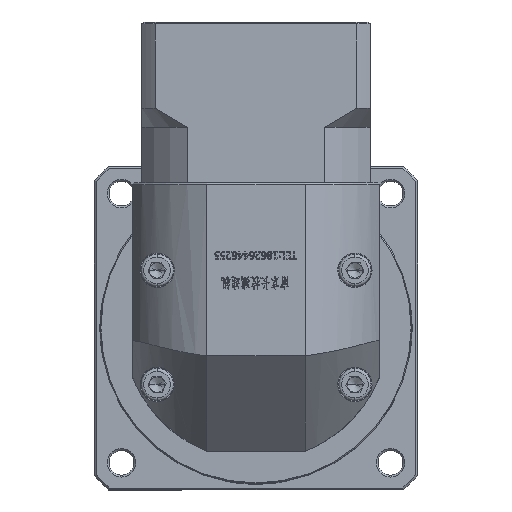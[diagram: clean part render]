
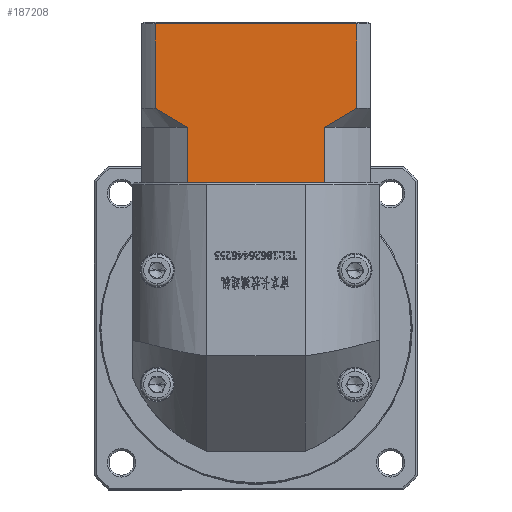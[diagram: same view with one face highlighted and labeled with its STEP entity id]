
A CAD part, top view. The second image highlights one B-rep face of the part: STEP entity #187208.
In plain terms, the highlighted planar face has unit normal (0, 0, 1).
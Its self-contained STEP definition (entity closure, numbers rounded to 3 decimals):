
#231 = EDGE_CURVE ( 'NONE', #184930, #65325, #157728, .T. ) ;
#843 = CARTESIAN_POINT ( 'NONE',  ( -54.522, 86.267, 52.58 ) ) ;
#1303 = VECTOR ( 'NONE', #90944, 1000. ) ;
#1353 = CARTESIAN_POINT ( 'NONE',  ( -55.978, 85.517, 52.58 ) ) ;
#5391 = LINE ( 'NONE', #24481, #40458 ) ;
#12006 = VECTOR ( 'NONE', #15637, 1000. ) ;
#13041 = CARTESIAN_POINT ( 'NONE',  ( -104.006, 112.717, 52.58 ) ) ;
#15405 = EDGE_CURVE ( 'NONE', #114594, #58598, #169874, .T. ) ;
#15507 = VECTOR ( 'NONE', #178546, 1000. ) ;
#15637 = DIRECTION ( 'NONE',  ( 1., 0., 0. ) ) ;
#16721 = LINE ( 'NONE', #45105, #12006 ) ;
#20304 = EDGE_CURVE ( 'NONE', #135572, #42452, #16721, .T. ) ;
#20843 = CARTESIAN_POINT ( 'NONE',  ( -100.464, 90.517, 52.58 ) ) ;
#23150 = CARTESIAN_POINT ( 'NONE',  ( -100.464, 90.517, 52.58 ) ) ;
#24481 = CARTESIAN_POINT ( 'NONE',  ( -92.034, 85.517, 52.58 ) ) ;
#26274 = EDGE_CURVE ( 'NONE', #114594, #131076, #40138, .T. ) ;
#30217 = LINE ( 'NONE', #190003, #163635 ) ;
#30803 = CARTESIAN_POINT ( 'NONE',  ( -55.978, 85.517, 52.58 ) ) ;
#30850 = CARTESIAN_POINT ( 'NONE',  ( -47.549, 85.517, 52.58 ) ) ;
#34606 = EDGE_CURVE ( 'NONE', #135572, #131076, #5391, .T. ) ;
#36309 = CARTESIAN_POINT ( 'NONE',  ( -99.104, 89.617, 52.58 ) ) ;
#38257 = CARTESIAN_POINT ( 'NONE',  ( -94.917, 87.068, 52.58 ) ) ;
#40138 = B_SPLINE_CURVE_WITH_KNOTS ( 'NONE', 3,
 ( #23150, #36309, #51391, #38257, #142817, #53323 ),
 .UNSPECIFIED., .F., .F.,
 ( 4, 2, 4 ),
 ( 0.052, 0.057, 0.062 ),
 .UNSPECIFIED. ) ;
#40458 = VECTOR ( 'NONE', #129077, 1000. ) ;
#40996 = LINE ( 'NONE', #30850, #1303 ) ;
#41754 = PLANE ( 'NONE',  #154138 ) ;
#42452 = VERTEX_POINT ( 'NONE', #82840 ) ;
#42503 = DIRECTION ( 'NONE',  ( -1., 0., 0. ) ) ;
#43210 = ORIENTED_EDGE ( 'NONE', *, *, #78696, .T. ) ;
#45105 = CARTESIAN_POINT ( 'NONE',  ( -104.006, 71.017, 52.58 ) ) ;
#45911 = CARTESIAN_POINT ( 'NONE',  ( -48.911, 89.616, 52.58 ) ) ;
#49251 = ORIENTED_EDGE ( 'NONE', *, *, #55905, .T. ) ;
#51391 = CARTESIAN_POINT ( 'NONE',  ( -97.725, 88.744, 52.58 ) ) ;
#53323 = CARTESIAN_POINT ( 'NONE',  ( -92.034, 85.517, 52.58 ) ) ;
#55040 = ORIENTED_EDGE ( 'NONE', *, *, #26274, .T. ) ;
#55905 = EDGE_CURVE ( 'NONE', #82140, #56523, #74074, .T. ) ;
#56523 = VERTEX_POINT ( 'NONE', #108114 ) ;
#58085 = DIRECTION ( 'NONE',  ( 0., 0., -1. ) ) ;
#58428 = ORIENTED_EDGE ( 'NONE', *, *, #69109, .F. ) ;
#58598 = VERTEX_POINT ( 'NONE', #119858 ) ;
#58776 = DIRECTION ( 'NONE',  ( 1., 0., 0. ) ) ;
#65325 = VERTEX_POINT ( 'NONE', #114578 ) ;
#69109 = EDGE_CURVE ( 'NONE', #160853, #65325, #40996, .T. ) ;
#70449 = ORIENTED_EDGE ( 'NONE', *, *, #34606, .F. ) ;
#74074 = LINE ( 'NONE', #148317, #153693 ) ;
#78696 = EDGE_CURVE ( 'NONE', #42452, #82140, #30217, .T. ) ;
#79898 = ORIENTED_EDGE ( 'NONE', *, *, #20304, .T. ) ;
#81629 = CARTESIAN_POINT ( 'NONE',  ( -47.549, 112.717, 52.58 ) ) ;
#81802 = FACE_OUTER_BOUND ( 'NONE', #141859, .T. ) ;
#82140 = VERTEX_POINT ( 'NONE', #97249 ) ;
#82840 = CARTESIAN_POINT ( 'NONE',  ( -91.043, 71.017, 52.58 ) ) ;
#86838 = ORIENTED_EDGE ( 'NONE', *, *, #231, .T. ) ;
#89017 = CARTESIAN_POINT ( 'NONE',  ( -100.464, 85.517, 52.58 ) ) ;
#90553 = DIRECTION ( 'NONE',  ( 0., -1., 0. ) ) ;
#90944 = DIRECTION ( 'NONE',  ( 0., -1., 0. ) ) ;
#97249 = CARTESIAN_POINT ( 'NONE',  ( -56.969, 71.017, 52.58 ) ) ;
#100538 = DIRECTION ( 'NONE',  ( 1., 0., 0. ) ) ;
#108114 = CARTESIAN_POINT ( 'NONE',  ( -55.978, 71.017, 52.58 ) ) ;
#109644 = ORIENTED_EDGE ( 'NONE', *, *, #126878, .F. ) ;
#114578 = CARTESIAN_POINT ( 'NONE',  ( -47.549, 90.517, 52.58 ) ) ;
#114594 = VERTEX_POINT ( 'NONE', #20843 ) ;
#119568 = VECTOR ( 'NONE', #90553, 1000. ) ;
#119858 = CARTESIAN_POINT ( 'NONE',  ( -100.464, 112.717, 52.58 ) ) ;
#122399 = ORIENTED_EDGE ( 'NONE', *, *, #15405, .F. ) ;
#126878 = EDGE_CURVE ( 'NONE', #184930, #56523, #178108, .T. ) ;
#129077 = DIRECTION ( 'NONE',  ( 0., 1., 0. ) ) ;
#131076 = VERTEX_POINT ( 'NONE', #155149 ) ;
#132712 = LINE ( 'NONE', #13041, #163224 ) ;
#134981 = CARTESIAN_POINT ( 'NONE',  ( -55.978, 85.517, 52.58 ) ) ;
#135324 = CARTESIAN_POINT ( 'NONE',  ( -50.291, 88.742, 52.58 ) ) ;
#135572 = VERTEX_POINT ( 'NONE', #144278 ) ;
#135844 = ORIENTED_EDGE ( 'NONE', *, *, #183939, .T. ) ;
#141859 = EDGE_LOOP ( 'NONE', ( #58428, #135844, #122399, #55040, #70449, #79898, #43210, #49251, #109644, #86838 ) ) ;
#142817 = CARTESIAN_POINT ( 'NONE',  ( -93.486, 86.265, 52.58 ) ) ;
#144278 = CARTESIAN_POINT ( 'NONE',  ( -92.034, 71.017, 52.58 ) ) ;
#147618 = CARTESIAN_POINT ( 'NONE',  ( -104.006, 113.217, 52.58 ) ) ;
#148317 = CARTESIAN_POINT ( 'NONE',  ( -104.006, 71.017, 52.58 ) ) ;
#150488 = CARTESIAN_POINT ( 'NONE',  ( -47.549, 90.517, 52.58 ) ) ;
#153693 = VECTOR ( 'NONE', #58776, 1000. ) ;
#154138 = AXIS2_PLACEMENT_3D ( 'NONE', #147618, #58085, #162654 ) ;
#155149 = CARTESIAN_POINT ( 'NONE',  ( -92.034, 85.517, 52.58 ) ) ;
#157728 = B_SPLINE_CURVE_WITH_KNOTS ( 'NONE', 3,
 ( #30803, #843, #179808, #135324, #45911, #150488 ),
 .UNSPECIFIED., .F., .F.,
 ( 4, 2, 4 ),
 ( 0.1, 0.104, 0.109 ),
 .UNSPECIFIED. ) ;
#160853 = VERTEX_POINT ( 'NONE', #81629 ) ;
#162654 = DIRECTION ( 'NONE',  ( 0., 1., 0. ) ) ;
#163224 = VECTOR ( 'NONE', #42503, 1000. ) ;
#163635 = VECTOR ( 'NONE', #100538, 1000. ) ;
#169874 = LINE ( 'NONE', #89017, #15507 ) ;
#178108 = LINE ( 'NONE', #134981, #119568 ) ;
#178546 = DIRECTION ( 'NONE',  ( 0., 1., 0. ) ) ;
#179808 = CARTESIAN_POINT ( 'NONE',  ( -53.096, 87.067, 52.58 ) ) ;
#183939 = EDGE_CURVE ( 'NONE', #160853, #58598, #132712, .T. ) ;
#184930 = VERTEX_POINT ( 'NONE', #1353 ) ;
#187208 = ADVANCED_FACE ( 'NONE', ( #81802 ), #41754, .F. ) ;
#190003 = CARTESIAN_POINT ( 'NONE',  ( -104.006, 71.017, 52.58 ) ) ;
